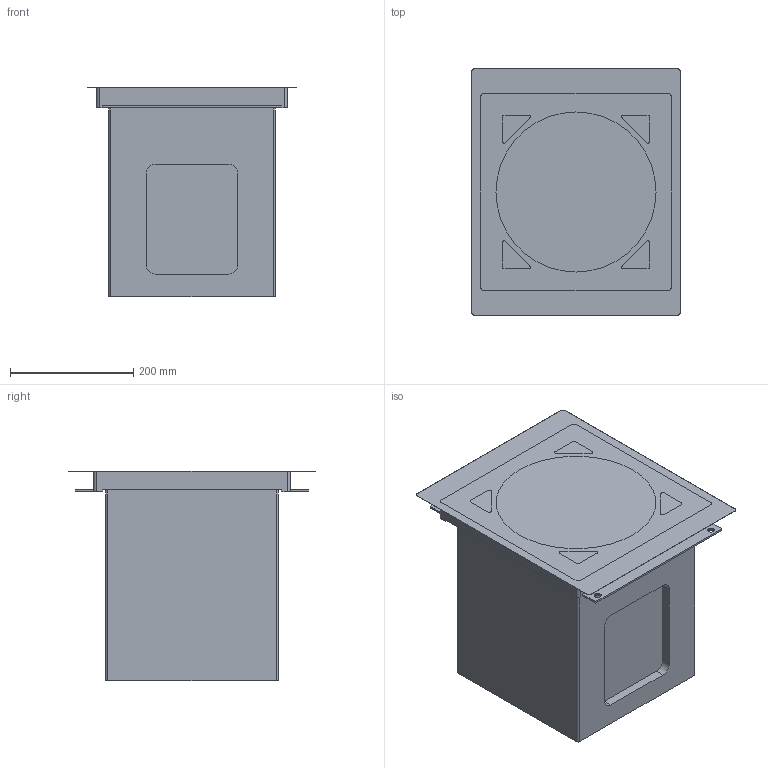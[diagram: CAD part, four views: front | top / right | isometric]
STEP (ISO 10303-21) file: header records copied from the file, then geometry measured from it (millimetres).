
FILE_DESCRIPTION(/* description */ ('STEP AP214'),/* implementation_level */ '2;1');
FILE_NAME(/* name */ 'The Director Woofer PRO PASSIVE VENTED WITH GRILLE.step',/* time_stamp */ '2025-04-02T12:37:03+02:00',/* author */ (''),/* organization */ (''),/* preprocessor_version */ 'ST-DEVELOPER v20.1',/* originating_system */ 'Autodesk Translation Framework v14.4.0.0',/* authorisation */ '');
FILE_SCHEMA (('AUTOMOTIVE_DESIGN { 1 0 10303 214 3 1 1 }'));
Length unit declared in the file: millimetre
Products named in the file (3): Director SUB 2; Director SUB 2_1; Director SUB Grille
Assembly tree (2 placements, depth 2):
  Director SUB 2
    Director SUB 2_1
    Director SUB Grille
Bounding box: 340 x 400 x 340.5 mm (x, y, z)
Volume: 24744677.4 mm3; surface area: 924818.4 mm2
Topology: 2 solids, 2 shells, 105 faces, 276 edges, 183 vertices
Faces by surface type: plane 51, cylinder 43, cone 6, torus 3, bspline 1, sphere 1
Full cylindrical faces by diameter (mm): 8.9 x4, 260 x1
Entity records: 3403 total; most frequent: DIRECTION 601, CARTESIAN_POINT 595, ORIENTED_EDGE 552, EDGE_CURVE 276, AXIS2_PLACEMENT_3D 216, VERTEX_POINT 183, LINE 169, VECTOR 169
